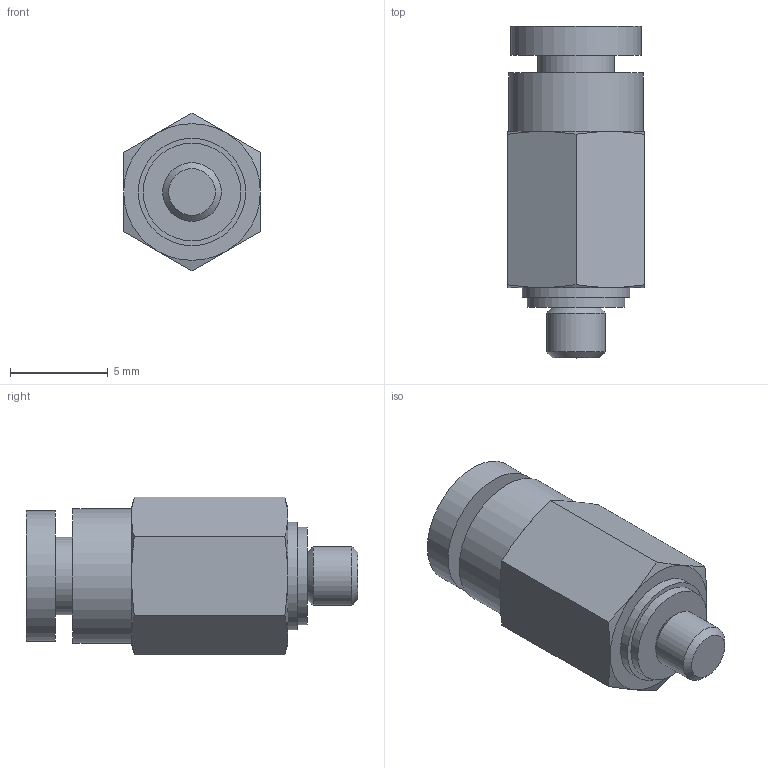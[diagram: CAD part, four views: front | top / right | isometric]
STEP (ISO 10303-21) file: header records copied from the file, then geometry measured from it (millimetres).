
FILE_DESCRIPTION(/* description */ ('STEP AP214'),/* implementation_level */ '2;1');
FILE_NAME(/* name */ 'KQ2H23-M3G',/* time_stamp */ '2023-03-09T07:16:35+01:00',/* author */ ('License CC BY-ND 4.0'),/* organization */ ('CADENAS'),/* preprocessor_version */ 'ST-DEVELOPER v18.102',/* originating_system */ 'PARTsolutions',/* authorisation */ ' ');
FILE_SCHEMA (('AUTOMOTIVE_DESIGN {1 0 10303 214 3 1 1}'));
Length unit declared in the file: millimetre
Products named in the file (1): KQ2H23-M3G
Bounding box: 7 x 17 x 8.08 mm (x, y, z)
Volume: 447.5 mm3; surface area: 606.8 mm2
Topology: 1 solids, 1 shells, 36 faces, 67 edges, 40 vertices
Faces by surface type: plane 15, cone 14, cylinder 7
Full cylindrical faces by diameter (mm): 3 x1, 3.2 x1, 3.95 x1, 5 x1, 5.5 x1, 6.7 x1, 6.9 x1
Entity records: 896 total; most frequent: CARTESIAN_POINT 207, DIRECTION 136, ORIENTED_EDGE 116, AXIS2_PLACEMENT_3D 65, EDGE_CURVE 58, EDGE_LOOP 52, FACE_BOUND 52, VERTEX_POINT 40
